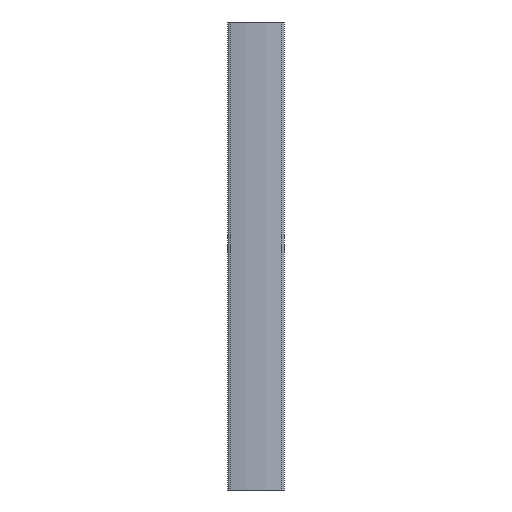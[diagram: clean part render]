
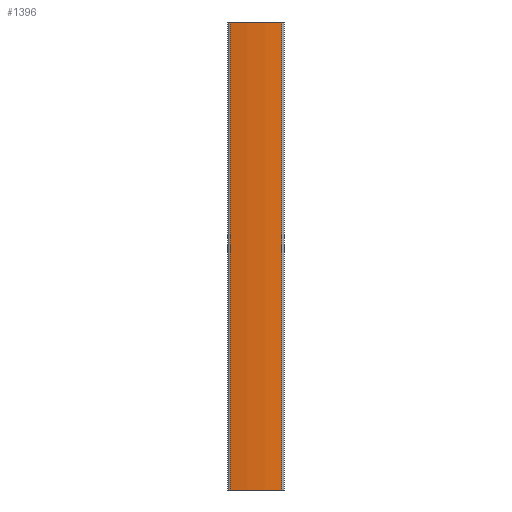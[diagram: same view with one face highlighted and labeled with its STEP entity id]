
A CAD part, left-side view. The second image highlights one B-rep face of the part: STEP entity #1396.
In plain terms, the highlighted cylindrical face has radius 200 mm (diameter 400 mm), a partial arc.
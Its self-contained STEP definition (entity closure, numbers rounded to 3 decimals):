
#201=CARTESIAN_POINT('',(173.,0.,0.));
#202=DIRECTION('',(0.,0.,1.));
#203=DIRECTION('',(-0.991,0.137,0.));
#204=AXIS2_PLACEMENT_3D('',#201,#202,#203);
#209=DIRECTION('',(0.,0.,-1.));
#210=VECTOR('',#209,500.);
#211=CARTESIAN_POINT('',(-25.113,-27.411,0.));
#212=LINE('',#211,#210);
#216=CARTESIAN_POINT('',(173.,0.,-500.));
#217=DIRECTION('',(0.,0.,1.));
#218=DIRECTION('',(-0.991,0.137,0.));
#219=AXIS2_PLACEMENT_3D('',#216,#217,#218);
#224=DIRECTION('',(0.,0.,-1.));
#225=VECTOR('',#224,500.);
#226=CARTESIAN_POINT('',(-25.113,27.411,0.));
#227=LINE('',#226,#225);
#1205=CARTESIAN_POINT('',(-25.113,27.411,-500.));
#1206=CARTESIAN_POINT('',(-25.113,-27.411,-500.));
#1207=VERTEX_POINT('',#1205);
#1208=VERTEX_POINT('',#1206);
#1293=CARTESIAN_POINT('',(-25.113,27.411,0.));
#1294=CARTESIAN_POINT('',(-25.113,-27.411,0.));
#1295=VERTEX_POINT('',#1293);
#1296=VERTEX_POINT('',#1294);
#1381=CARTESIAN_POINT('',(173.,0.,5.));
#1382=DIRECTION('',(0.,0.,1.));
#1383=DIRECTION('',(1.,0.,0.));
#1384=AXIS2_PLACEMENT_3D('',#1381,#1382,#1383);
#1385=CYLINDRICAL_SURFACE('',#1384,200.);
#1387=ORIENTED_EDGE('',*,*,#1386,.T.);
#1389=ORIENTED_EDGE('',*,*,#1388,.T.);
#1391=ORIENTED_EDGE('',*,*,#1390,.F.);
#1393=ORIENTED_EDGE('',*,*,#1392,.F.);
#1394=EDGE_LOOP('',(#1387,#1389,#1391,#1393));
#1395=FACE_OUTER_BOUND('',#1394,.F.);
#205=CIRCLE('',#204,200.);
#220=CIRCLE('',#219,200.);
#1386=EDGE_CURVE('',#1295,#1296,#205,.T.);
#1388=EDGE_CURVE('',#1296,#1208,#212,.T.);
#1390=EDGE_CURVE('',#1207,#1208,#220,.T.);
#1392=EDGE_CURVE('',#1295,#1207,#227,.T.);
#1396=ADVANCED_FACE('',(#1395),#1385,.T.);
